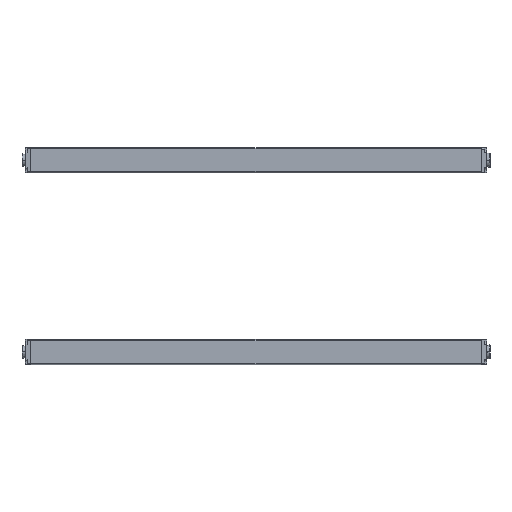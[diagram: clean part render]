
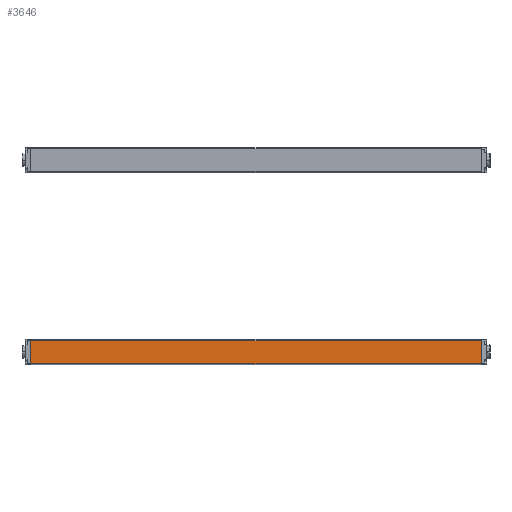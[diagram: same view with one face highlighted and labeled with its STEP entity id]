
A CAD part, left-side view. The second image highlights one B-rep face of the part: STEP entity #3646.
In plain terms, the highlighted planar face has unit normal (-1, 0, -0.009) as drawn and (1, 0, 0) by its records, which use the part's own axes.
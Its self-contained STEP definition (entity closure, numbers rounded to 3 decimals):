
#27 = CARTESIAN_POINT ( 'NONE',  ( 15., 0., -16.9 ) ) ;
#140 = ORIENTED_EDGE ( 'NONE', *, *, #9075, .T. ) ;
#413 = DIRECTION ( 'NONE',  ( -1., 0., 0. ) ) ;
#630 = ORIENTED_EDGE ( 'NONE', *, *, #5191, .T. ) ;
#796 = EDGE_LOOP ( 'NONE', ( #630, #11903, #2195, #140 ) ) ;
#915 = LINE ( 'NONE', #6480, #9406 ) ;
#1552 = EDGE_CURVE ( 'NONE', #17027, #14615, #5080, .T. ) ;
#1774 = FACE_OUTER_BOUND ( 'NONE', #796, .T. ) ;
#2195 = ORIENTED_EDGE ( 'NONE', *, *, #1552, .F. ) ;
#2394 = CARTESIAN_POINT ( 'NONE',  ( 15., 540., -16.693 ) ) ;
#3262 = VECTOR ( 'NONE', #5606, 1000. ) ;
#3646 = ADVANCED_FACE ( 'NONE', ( #1774 ), #7351, .F. ) ;
#4057 = DIRECTION ( 'NONE',  ( 0., 1., 0. ) ) ;
#4521 = CARTESIAN_POINT ( 'NONE',  ( 15., 0., -16.693 ) ) ;
#5080 = LINE ( 'NONE', #10620, #5619 ) ;
#5191 = EDGE_CURVE ( 'NONE', #6752, #15802, #12498, .T. ) ;
#5606 = DIRECTION ( 'NONE',  ( 0., 0., -1. ) ) ;
#5619 = VECTOR ( 'NONE', #16160, 1000. ) ;
#5985 = DIRECTION ( 'NONE',  ( 0., 0., 1. ) ) ;
#6001 = VECTOR ( 'NONE', #4057, 1000. ) ;
#6480 = CARTESIAN_POINT ( 'NONE',  ( 15., 540., 10.9 ) ) ;
#6752 = VERTEX_POINT ( 'NONE', #11950 ) ;
#7351 = PLANE ( 'NONE',  #13583 ) ;
#9075 = EDGE_CURVE ( 'NONE', #17027, #6752, #915, .T. ) ;
#9406 = VECTOR ( 'NONE', #12017, 1000. ) ;
#10163 = CARTESIAN_POINT ( 'NONE',  ( 15., 540., 10.9 ) ) ;
#10593 = EDGE_CURVE ( 'NONE', #15802, #14615, #10967, .T. ) ;
#10620 = CARTESIAN_POINT ( 'NONE',  ( 15., 540., -16.9 ) ) ;
#10967 = LINE ( 'NONE', #16506, #6001 ) ;
#11903 = ORIENTED_EDGE ( 'NONE', *, *, #10593, .T. ) ;
#11950 = CARTESIAN_POINT ( 'NONE',  ( 15., 0., 10.9 ) ) ;
#12017 = DIRECTION ( 'NONE',  ( 0., -1., 0. ) ) ;
#12498 = LINE ( 'NONE', #27, #3262 ) ;
#12879 = CARTESIAN_POINT ( 'NONE',  ( 15., 540., -16.9 ) ) ;
#13583 = AXIS2_PLACEMENT_3D ( 'NONE', #12879, #413, #5985 ) ;
#14615 = VERTEX_POINT ( 'NONE', #2394 ) ;
#15802 = VERTEX_POINT ( 'NONE', #4521 ) ;
#16160 = DIRECTION ( 'NONE',  ( 0., 0., -1. ) ) ;
#16506 = CARTESIAN_POINT ( 'NONE',  ( 15., 540., -16.693 ) ) ;
#17027 = VERTEX_POINT ( 'NONE', #10163 ) ;
